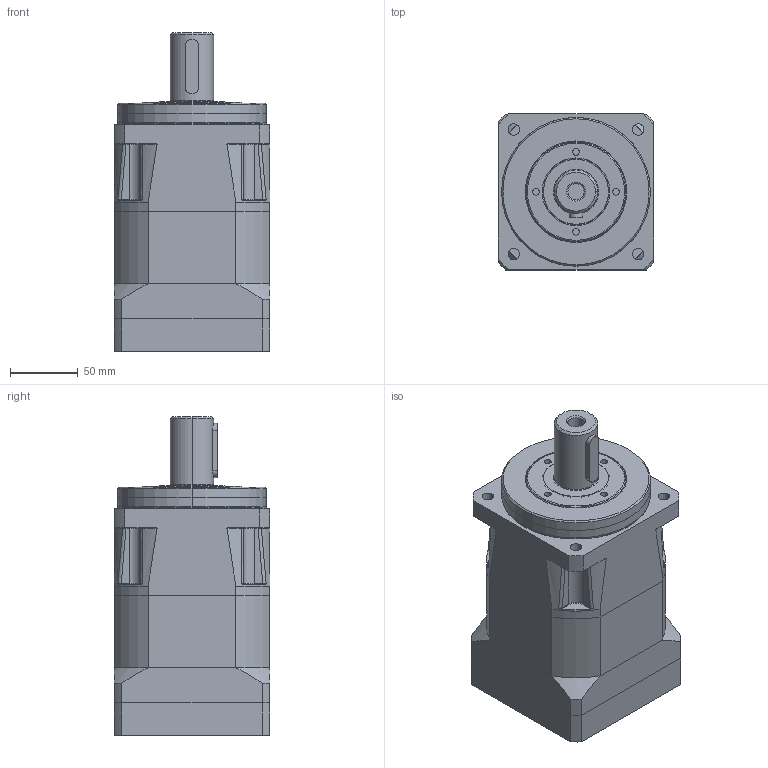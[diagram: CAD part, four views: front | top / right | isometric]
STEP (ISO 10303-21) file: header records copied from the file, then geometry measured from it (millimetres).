
FILE_DESCRIPTION((''),'2;1');
FILE_NAME('PS115-XXX-000-X2_ASM','2009-03-24T',('ata7311'),(''),'PRO/ENGINEER BY PARAMETRIC TECHNOLOGY CORPORATION, 2006300','PRO/ENGINEER BY PARAMETRIC TECHNOLOGY CORPORATION, 2006300','');
FILE_SCHEMA(('CONFIG_CONTROL_DESIGN'));
Products named in the file (15): 13359XXX; 13363000; HD202-0007; 10087125; 13355XXX_ASM; 13363001; 13364000; 13360XXX; 13120003; M6X25; 12292001; 13356XXX_ASM; 13458001; M6X50; PS115-XXX-000-X2_ASM
Assembly tree (18 placements, depth 3):
  PS115-XXX-000-X2_ASM
    13355XXX_ASM
      13359XXX
      13363000
      HD202-0007
      10087125
    13363001
    13356XXX_ASM
      13364000
      13360XXX
      13120003
      M6X25
      12292001  x2
    13458001
    M6X50  x4
Bounding box: 115 x 115.01 x 235.4 mm (x, y, z)
Volume: 1259114.5 mm3; surface area: 272670.7 mm2
Topology: 16 solids, 16 shells, 515 faces, 1185 edges, 762 vertices
Faces by surface type: cylinder 232, plane 187, cone 48, torus 24, bspline 24
Entity records: 14527 total; most frequent: CARTESIAN_POINT 3752, DIRECTION 2351, ORIENTED_EDGE 2070, EDGE_CURVE 1035, AXIS2_PLACEMENT_3D 967, VERTEX_POINT 664, EDGE_LOOP 539, CIRCLE 503
